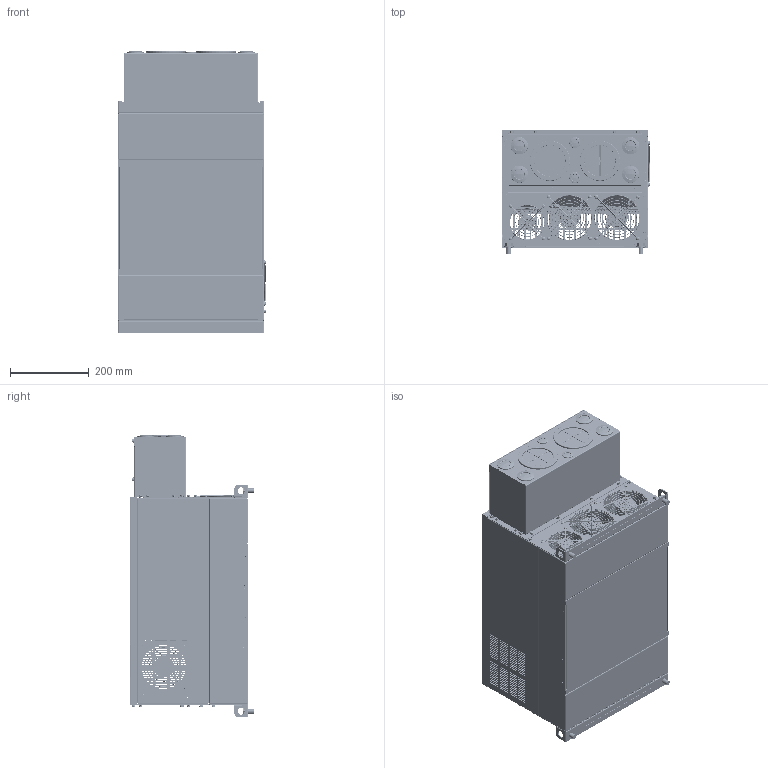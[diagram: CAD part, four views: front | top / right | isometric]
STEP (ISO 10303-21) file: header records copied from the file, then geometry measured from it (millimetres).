
FILE_DESCRIPTION((''),'2;1');
FILE_NAME('VFD-CP-E2-PD-3D01_ASM_ASM','2020-01-10T10:59:10',('COLA.LIU'),(''),'CREO PARAMETRIC BY PTC INC, 2018500','CREO PARAMETRIC BY PTC INC, 2018500','');
FILE_SCHEMA(('AUTOMOTIVE_DESIGN { 1 0 10303 214 1 1 1 1 }'));
Products named in the file (216): PRT0525_1; PRT0526_1; PRT0527_1; PRT0528_1; PRT0529_1; PRT0530_1; PRT0531_1; PRT0532_1; PRT0533_1; PRT0534_1; PRT0535_1; PRT0536_1; PRT0537_1; PRT0538_1; PRT0539_1; PRT0540_1; PRT0541_1; PRT0542_1; PRT0543_1; PRT0544_1; PRT0545_1; PRT0546_1; PRT0547_1; PRT0548_1; PRT0549_1; ASM0215_ASM_ASM_1_ASM; PRT0550_1; PRT0551_1; PRT0552_1; ASM0216_ASM_ASM_1_ASM; PRT0553_1; NUT_M4X2_1_1; FH-M6-12-ZI_1_1; ASM0217_ASM_ASM_1_ASM; PRT0554_1; ASM0218_ASM_ASM_1_ASM; PRT0555_1; ASM0219_ASM_ASM_1_ASM; PRT0556_1; PRT0557_1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
Assembly tree (474 placements, depth 13):
  VFD-CP-E2-PD-3D01_ASM_ASM
    VFD-CP-E2-PD-3D01_ASM_1_ASM
      ASM0212_ASM_ASM_1_ASM
        ASM0213_ASM_ASM_1_ASM
          ASM0214_ASM_ASM_1_ASM
            PRT0525_1
            ASM0215_ASM_ASM_1_ASM
              PRT0526_1
              PRT0527_1
              PRT0528_1
              PRT0529_1
              PRT0530_1
              PRT0531_1
              PRT0532_1
              PRT0533_1
              PRT0534_1
              PRT0535_1
              PRT0536_1
              PRT0537_1
              PRT0538_1
              PRT0539_1
              PRT0540_1
              PRT0541_1
              PRT0542_1
              PRT0543_1
              PRT0544_1
              PRT0545_1
              PRT0546_1
              PRT0547_1
              PRT0548_1
              PRT0549_1
            ASM0216_ASM_ASM_1_ASM
              PRT0550_1
              PRT0551_1  x8
              PRT0552_1  x10
            ASM0217_ASM_ASM_1_ASM
              PRT0553_1
              NUT_M4X2_1_1  x8
              FH-M6-12-ZI_1_1  x8
            ASM0218_ASM_ASM_1_ASM
              PRT0554_1  x8
            ASM0219_ASM_ASM_1_ASM
              PRT0555_1  x8
            ASM0220_ASM_ASM_1_ASM
              PRT0556_1
              PRT0557_1  x2
              PRT0558_1  x2
              PRT0559_1  x3
            ASM0221_ASM_ASM_1_ASM
              PRT0560_1
              31051622XX-SW-M5X10_1-41806_1  x6
              PRT0561_1  x2
            ASM0222_ASM_ASM_1_ASM
              PRT0562_1
              31051622XX-SW-M5X10_1-41806_1  x6
              M12_1_1  x2
            ASM0223_ASM_ASM_1_ASM
              PRT0563_1
              31051622XX-SW-M5X10_1-41806_1  x10
            ASM0224_ASM_ASM_1_ASM
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Bounding box: 375.55 x 315.3 x 715.8 mm (x, y, z)
Volume: 5385214.3 mm3; surface area: 5138492 mm2
Topology: 440 solids, 446 shells, 21544 faces, 56972 edges, 37241 vertices
Faces by surface type: plane 12671, cylinder 6671, torus 1035, cone 648, bspline 249, sphere 194, extrusion 76
Entity records: 424100 total; most frequent: CARTESIAN_POINT 85352, DIRECTION 62277, ORIENTED_EDGE 57876, EDGE_CURVE 28938, AXIS2_PLACEMENT_3D 20803, VECTOR 20073, LINE 19997, VERTEX_POINT 18915
